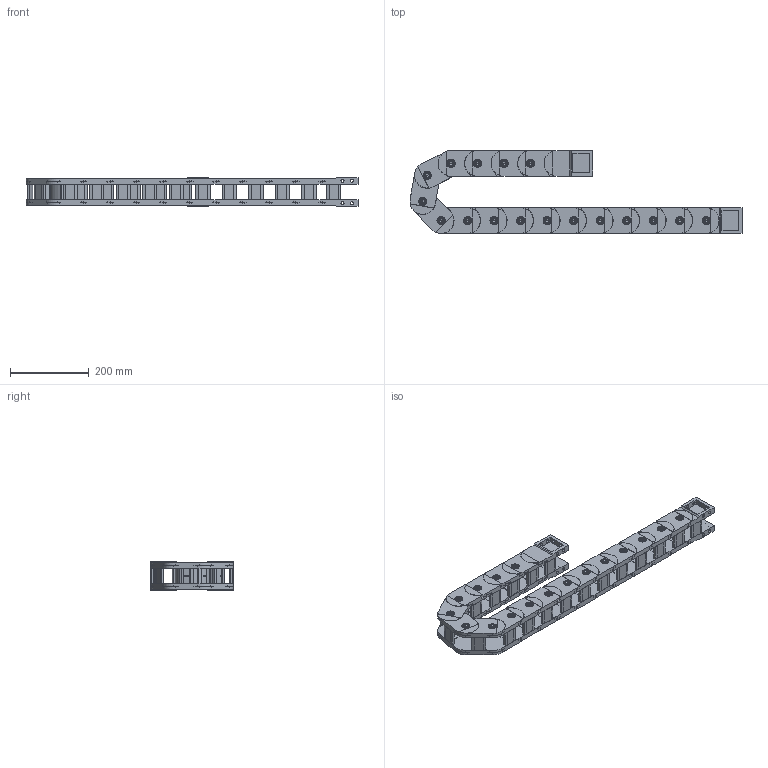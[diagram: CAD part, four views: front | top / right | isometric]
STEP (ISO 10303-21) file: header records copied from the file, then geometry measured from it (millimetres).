
FILE_DESCRIPTION((''),'2;1');
FILE_NAME('HD-45-LK-R75_ASM','2023-04-13T18:29:01',('admin'),(''),'CREO PARAMETRIC BY PTC INC, 2021164','CREO PARAMETRIC BY PTC INC, 2021164','');
FILE_SCHEMA(('CONFIG_CONTROL_DESIGN','GEOMETRIC_VALIDATION_PROPERTIES_MIM'));
Length unit declared in the file: millimetre
Products named in the file (6): HD-45-LK; 45-750001; HD-45-LK_ASM; H45-T2-G; H45-T1-G; HD-45-LK-R75_ASM
Assembly tree (23 placements, depth 3):
  HD-45-LK-R75_ASM
    HD-45-LK_ASM  x17
      HD-45-LK
      45-750001
    H45-T2-G
    H45-T1-G
    45-750001  x2
Bounding box: 845.15 x 210.68 x 73 mm (x, y, z)
Volume: 2720689.5 mm3; surface area: 960403.7 mm2
Topology: 76 solids, 76 shells, 1826 faces, 4654 edges, 3094 vertices
Faces by surface type: plane 1112, cylinder 306, torus 204, cone 136, sphere 68
Entity records: 11252 total; most frequent: DIRECTION 1480, CARTESIAN_POINT 1464, ORIENTED_EDGE 1348, PRESENTATION_STYLE_ASSIGNMENT 704, STYLED_ITEM 688, CURVE_STYLE 674, EDGE_CURVE 674, AXIS2_PLACEMENT_3D 525
